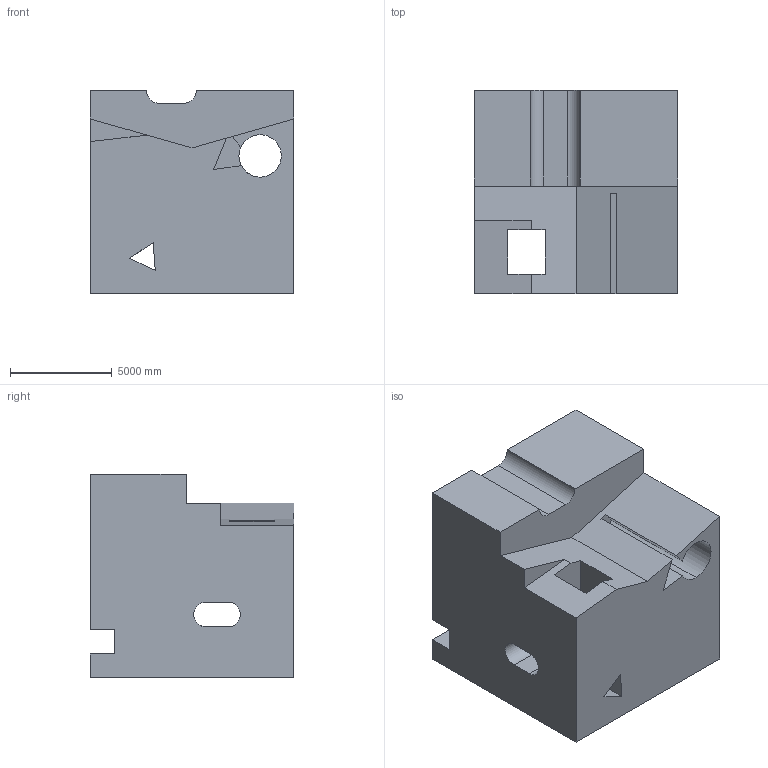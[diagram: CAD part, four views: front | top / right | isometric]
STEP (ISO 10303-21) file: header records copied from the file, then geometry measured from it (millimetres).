
FILE_DESCRIPTION (( 'STEP AP203' ), '1' );
FILE_NAME ('965.STEP', '2022-07-29T14:45:34', ( 'user' ), ( '' ), 'SwSTEP 2.0', 'SolidWorks 2021', '' );
FILE_SCHEMA (( 'CONFIG_CONTROL_DESIGN' ));
Length unit declared in the file: centimetre
Products named in the file (1): 965
Bounding box: 10000 x 10000 x 10000 mm (x, y, z)
Volume: 727488922892.8 mm3; surface area: 855961082 mm2
Topology: 1 solids, 1 shells, 48 faces, 156 edges, 104 vertices
Faces by surface type: plane 40, cylinder 8
Entity records: 1807 total; most frequent: CARTESIAN_POINT 321, ORIENTED_EDGE 312, DIRECTION 272, EDGE_CURVE 156, LINE 130, VECTOR 130, VERTEX_POINT 104, AXIS2_PLACEMENT_3D 71
